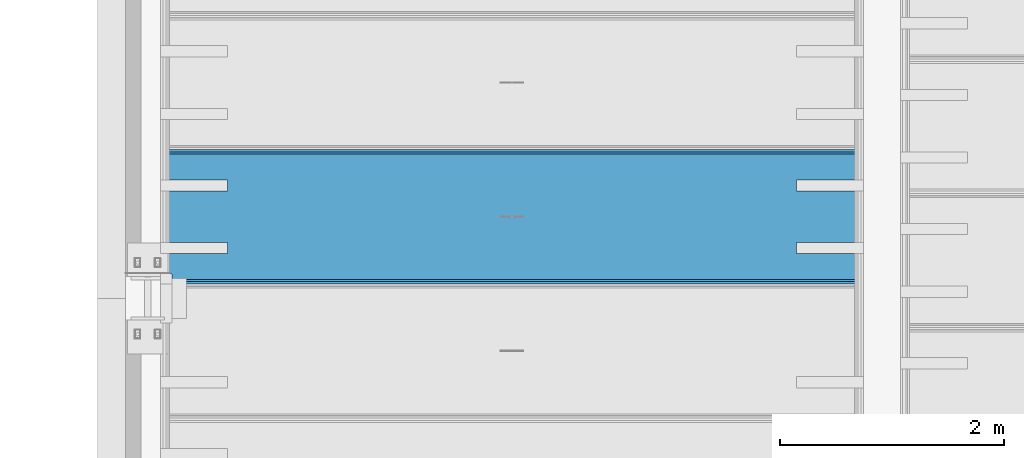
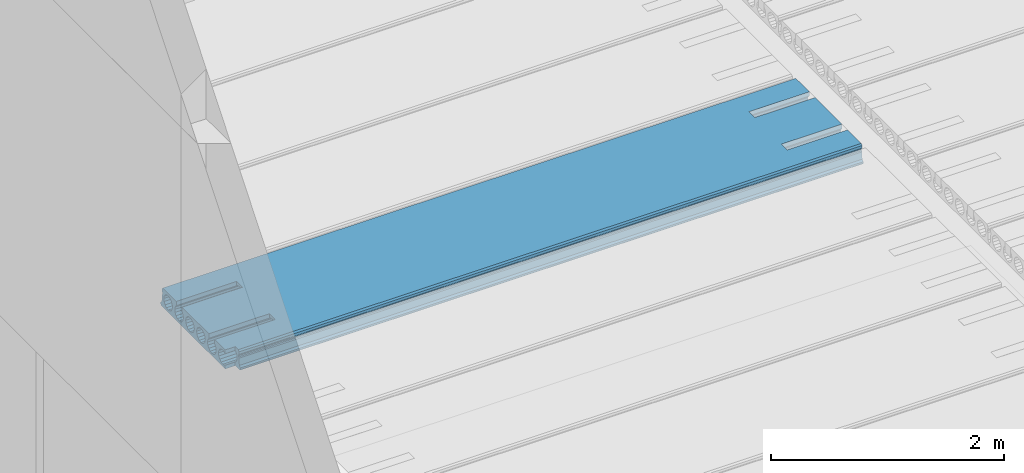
# One storey, part 131 of 230: 1 beam.
"""IFC4X3_ADD2 building model written with IfcOpenShell, lengths in millimetres."""

from ifc_helpers import new_model, si_unit, direction, origin_with_axes, place, context, subcontext, project, spatial, polygons, element, save


model = new_model("IFC4X3_ADD2")

# Units and contexts
model_context = context("Model", 3, precision=1e-05, world=origin_with_axes(), true_north=direction((0.0, 1.0)))
body_context = subcontext(model_context, "Body", "Model", "MODEL_VIEW")
ifc_project = project(units=[si_unit("LENGTHUNIT", "METRE", prefix="MILLI"), si_unit("AREAUNIT", "SQUARE_METRE"), si_unit("VOLUMEUNIT", "CUBIC_METRE"), si_unit("PLANEANGLEUNIT", "RADIAN"), si_unit("TIMEUNIT", "SECOND"), si_unit("MASSUNIT", "GRAM")], contexts=[model_context])

# Site, building, storey
site_placement = place(None, origin_with_axes())
site = spatial("IfcSite", under=ifc_project, at=site_placement, Name="Site", CompositionType="ELEMENT")
building_placement = place(site_placement, origin_with_axes())
building = spatial("IfcBuilding", under=site, at=building_placement, Name="IFC Building Story")
storey_placement = place(building_placement, origin_with_axes())
storey = spatial("IfcBuildingStorey", under=building, at=storey_placement, Name="ETAGE 00 (0)", Elevation=0.0)

# Beam
beam_placement = place(storey_placement, origin_with_axes())
element("IfcBeam", 1, at=beam_placement, inside=storey, Name="HOLLOWCORE SLAB", ObjectType="EB_SP200", context=body_context, shape_type="Tessellation", body=[
    polygons([(33516.189, 22020.0009155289, 4199.9999909), (33516.189, 22020.0009155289, 4155.806158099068), (33516.189, 22015.32146033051, 4152.679446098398), (33516.189, 21999.17189035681, 4128.509906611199), (33516.189, 21993.5009155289, 4099.9999909), (33516.189, 21999.17189035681, 4071.490075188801), (33516.189, 22015.3214603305, 4047.320535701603), (33516.189, 22039.4909998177, 4031.17096572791), (33516.189, 22068.0009155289, 4025.499990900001), (33516.189, 22096.5108312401, 4031.17096572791), (33516.189, 22120.6803707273, 4047.320535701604), (33516.189, 22136.82994070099, 4071.490075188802), (33516.189, 22142.5009155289, 4099.9999909), (33516.189, 22136.82994070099, 4128.5099066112), (33516.189, 22120.6803707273, 4152.679446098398), (33516.189, 22120.0009155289, 4153.133443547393), (33516.189, 22120.0009155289, 4199.9999909), (33516.189, 22580.0009155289, 4199.9999909), (33516.189, 22580.0009155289, 4153.133443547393), (33516.189, 22579.32146033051, 4152.679446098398), (33516.189, 22563.17189035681, 4128.509906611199), (33516.189, 22557.5009155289, 4099.9999909), (33516.189, 22563.17189035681, 4071.490075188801), (33516.189, 22579.3214603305, 4047.320535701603), (33516.189, 22603.4909998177, 4031.17096572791), (33516.189, 22632.0009155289, 4025.499990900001), (33516.189, 22660.5108312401, 4031.17096572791), (33516.189, 22684.6803707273, 4047.320535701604), (33516.189, 22700.82994070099, 4071.490075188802), (33516.189, 22706.5009155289, 4099.9999909), (33516.189, 22700.82994070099, 4128.5099066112), (33516.189, 22684.6803707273, 4152.679446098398), (33516.189, 22680.0009155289, 4155.806158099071), (33516.189, 22680.0009155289, 4199.9999909), (33516.189, 22912.0009155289, 4199.9999909), (33516.189, 22927.28961936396, 4185.002769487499), (33516.189, 22927.77093506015, 4159.9999909), (33516.189, 22920.58227911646, 4151.036789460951), (33516.189, 22918.1609855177, 4139.805000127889), (33516.189, 22921.01829405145, 4128.676139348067), (33516.189, 22928.55090332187, 4119.9999909), (33516.189, 22930.0009155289, 4044.999990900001), (33516.189, 22950.0009155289, 4029.9999909), (33516.189, 22950.0009155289, 4012.9999909), (33516.189, 22939.0009155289, 3999.9999909), (33516.189, 21840.0009155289, 3999.9999909), (33516.189, 21840.0009155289, 4038.848394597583), (33516.189, 21851.4909998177, 4031.17096572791), (33516.189, 21880.0009155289, 4025.499990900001), (33516.189, 21908.5108312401, 4031.17096572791), (33516.189, 21932.68037072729, 4047.320535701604), (33516.189, 21948.82994070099, 4071.490075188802), (33516.189, 21954.5009155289, 4099.9999909), (33516.189, 21948.82994070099, 4128.5099066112), (33516.189, 21932.6803707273, 4152.679446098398), (33516.189, 21908.5108312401, 4168.829016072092), (33516.189, 21880.0009155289, 4174.4999909), (33516.189, 21851.49099981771, 4168.829016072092), (33516.189, 21840.0009155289, 4161.151587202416), (33516.189, 21840.0009155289, 4199.9999909), (33516.189, 22872.6803707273, 4152.679446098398), (33516.189, 22848.5108312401, 4168.829016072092), (33516.189, 22820.0009155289, 4174.4999909), (33516.189, 22791.4909998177, 4168.829016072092), (33516.189, 22767.32146033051, 4152.679446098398), (33516.189, 22751.17189035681, 4128.509906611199), (33516.189, 22745.5009155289, 4099.9999909), (33516.189, 22751.17189035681, 4071.490075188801), (33516.189, 22767.3214603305, 4047.320535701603), (33516.189, 22791.4909998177, 4031.17096572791), (33516.189, 22820.0009155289, 4025.499990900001), (33516.189, 22848.5108312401, 4031.17096572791), (33516.189, 22872.6803707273, 4047.320535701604), (33516.189, 22888.82994070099, 4071.490075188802), (33516.189, 22894.5009155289, 4099.9999909), (33516.189, 22888.82994070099, 4128.5099066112), (33516.189, 22496.6803707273, 4152.679446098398), (33516.189, 22472.5108312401, 4168.829016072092), (33516.189, 22444.0009155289, 4174.4999909), (33516.189, 22415.4909998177, 4168.829016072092), (33516.189, 22391.32146033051, 4152.679446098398), (33516.189, 22375.17189035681, 4128.509906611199), (33516.189, 22369.5009155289, 4099.9999909), (33516.189, 22375.1718903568, 4071.490075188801), (33516.189, 22391.32146033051, 4047.320535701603), (33516.189, 22415.4909998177, 4031.17096572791), (33516.189, 22444.0009155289, 4025.499990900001), (33516.189, 22472.5108312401, 4031.17096572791), (33516.189, 22496.6803707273, 4047.320535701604), (33516.189, 22512.82994070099, 4071.490075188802), (33516.189, 22518.5009155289, 4099.9999909), (33516.189, 22512.82994070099, 4128.5099066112), (33516.189, 22308.6803707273, 4152.679446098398), (33516.189, 22284.5108312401, 4168.829016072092), (33516.189, 22256.0009155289, 4174.4999909), (33516.189, 22227.49099981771, 4168.829016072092), (33516.189, 22203.3214603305, 4152.679446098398), (33516.189, 22187.17189035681, 4128.509906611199), (33516.189, 22181.5009155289, 4099.9999909), (33516.189, 22187.17189035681, 4071.490075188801), (33516.189, 22203.3214603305, 4047.320535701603), (33516.189, 22227.4909998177, 4031.17096572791), (33516.189, 22256.0009155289, 4025.499990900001), (33516.189, 22284.51083124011, 4031.17096572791), (33516.189, 22308.6803707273, 4047.320535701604), (33516.189, 22324.82994070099, 4071.490075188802), (33516.189, 22330.5009155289, 4099.9999909), (33516.189, 22324.829940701, 4128.5099066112), (39801.189, 22939.0009155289, 3999.9999909), (39801.189, 22950.0009155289, 4012.999990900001), (39801.189, 22950.0009155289, 4029.9999909), (39801.189, 22930.0009155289, 4044.999990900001), (39801.189, 22928.55090332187, 4119.9999909), (39801.189, 22921.01829405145, 4128.676139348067), (39801.189, 22918.16098551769, 4139.805000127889), (39801.189, 22920.58227911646, 4151.036789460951), (39801.189, 22927.77093506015, 4159.9999909), (39801.189, 22927.28961936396, 4185.002769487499), (39801.189, 22912.0009155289, 4199.9999909), (39801.189, 22680.0009155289, 4199.9999909), (39801.189, 22680.0009155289, 4155.806158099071), (39801.189, 22684.6803707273, 4152.679446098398), (39801.189, 22700.82994070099, 4128.509906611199), (39801.189, 22706.5009155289, 4099.9999909), (39801.189, 22700.82994070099, 4071.490075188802), (39801.189, 22684.6803707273, 4047.320535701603), (39801.189, 22660.5108312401, 4031.17096572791), (39801.189, 22632.0009155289, 4025.499990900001), (39801.189, 22603.4909998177, 4031.17096572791), (39801.189, 22579.3214603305, 4047.320535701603), (39801.189, 22563.17189035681, 4071.490075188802), (39801.189, 22557.5009155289, 4099.9999909), (39801.189, 22563.17189035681, 4128.509906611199), (39801.189, 22579.3214603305, 4152.679446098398), (39801.189, 22580.0009155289, 4153.133443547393), (39801.189, 22580.0009155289, 4199.9999909), (39801.189, 22120.0009155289, 4199.9999909), (39801.189, 22120.0009155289, 4153.133443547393), (39801.189, 22120.6803707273, 4152.679446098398), (39801.189, 22136.82994070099, 4128.509906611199), (39801.189, 22142.5009155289, 4099.9999909), (39801.189, 22136.82994070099, 4071.490075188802), (39801.189, 22120.6803707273, 4047.320535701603), (39801.189, 22096.5108312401, 4031.17096572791), (39801.189, 22068.0009155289, 4025.499990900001), (39801.189, 22039.4909998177, 4031.17096572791), (39801.189, 22015.32146033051, 4047.320535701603), (39801.189, 21999.17189035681, 4071.490075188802), (39801.189, 21993.5009155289, 4099.9999909), (39801.189, 21999.17189035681, 4128.509906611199), (39801.189, 22015.32146033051, 4152.679446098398), (39801.189, 22020.0009155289, 4155.806158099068), (39801.189, 22020.0009155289, 4199.9999909), (39801.189, 21788.0009155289, 4199.9999909), (39801.189, 21772.71221169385, 4185.002769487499), (39801.189, 21772.23089599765, 4159.9999909), (39801.189, 21779.41955194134, 4151.036789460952), (39801.189, 21781.84084554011, 4139.805000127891), (39801.189, 21778.98353700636, 4128.676139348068), (39801.189, 21771.45092773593, 4119.9999909), (39801.189, 21770.0009155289, 4044.999990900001), (39801.189, 21750.0009155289, 4029.9999909), (39801.189, 21750.0009155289, 4012.999990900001), (39801.189, 21761.0009155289, 3999.9999909), (39801.189, 22872.6803707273, 4152.679446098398), (39801.189, 22888.82994070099, 4128.509906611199), (39801.189, 22894.5009155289, 4099.9999909), (39801.189, 22888.82994070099, 4071.490075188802), (39801.189, 22872.6803707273, 4047.320535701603), (39801.189, 22848.5108312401, 4031.17096572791), (39801.189, 22820.0009155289, 4025.499990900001), (39801.189, 22791.4909998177, 4031.17096572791), (39801.189, 22767.3214603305, 4047.320535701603), (39801.189, 22751.17189035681, 4071.490075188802), (39801.189, 22745.5009155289, 4099.9999909), (39801.189, 22751.17189035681, 4128.509906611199), (39801.189, 22767.3214603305, 4152.679446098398), (39801.189, 22791.4909998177, 4168.829016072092), (39801.189, 22820.0009155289, 4174.4999909), (39801.189, 22848.5108312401, 4168.829016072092), (39801.189, 22496.6803707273, 4152.679446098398), (39801.189, 22512.82994070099, 4128.509906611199), (39801.189, 22518.5009155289, 4099.9999909), (39801.189, 22512.82994070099, 4071.490075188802), (39801.189, 22496.6803707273, 4047.320535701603), (39801.189, 22472.5108312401, 4031.17096572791), (39801.189, 22444.0009155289, 4025.499990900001), (39801.189, 22415.4909998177, 4031.17096572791), (39801.189, 22391.3214603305, 4047.320535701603), (39801.189, 22375.17189035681, 4071.490075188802), (39801.189, 22369.5009155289, 4099.9999909), (39801.189, 22375.17189035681, 4128.509906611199), (39801.189, 22391.3214603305, 4152.679446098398), (39801.189, 22415.4909998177, 4168.829016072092), (39801.189, 22444.0009155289, 4174.4999909), (39801.189, 22472.5108312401, 4168.829016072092), (39801.189, 22308.6803707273, 4152.679446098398), (39801.189, 22324.82994070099, 4128.509906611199), (39801.189, 22330.5009155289, 4099.9999909), (39801.189, 22324.82994070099, 4071.490075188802), (39801.189, 22308.6803707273, 4047.320535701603), (39801.189, 22284.5108312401, 4031.17096572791), (39801.189, 22256.0009155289, 4025.499990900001), (39801.189, 22227.4909998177, 4031.17096572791), (39801.189, 22203.3214603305, 4047.320535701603), (39801.189, 22187.17189035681, 4071.490075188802), (39801.189, 22181.5009155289, 4099.9999909), (39801.189, 22187.17189035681, 4128.509906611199), (39801.189, 22203.3214603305, 4152.679446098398), (39801.189, 22227.4909998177, 4168.829016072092), (39801.189, 22256.0009155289, 4174.4999909), (39801.189, 22284.5108312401, 4168.829016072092), (39801.189, 21932.6803707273, 4152.679446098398), (39801.189, 21948.82994070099, 4128.509906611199), (39801.189, 21954.5009155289, 4099.9999909), (39801.189, 21948.82994070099, 4071.490075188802), (39801.189, 21932.6803707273, 4047.320535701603), (39801.189, 21908.5108312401, 4031.17096572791), (39801.189, 21880.0009155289, 4025.499990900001), (39801.189, 21851.4909998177, 4031.17096572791), (39801.189, 21827.3214603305, 4047.320535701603), (39801.189, 21811.17189035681, 4071.490075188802), (39801.189, 21805.5009155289, 4099.9999909), (39801.189, 21811.17189035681, 4128.509906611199), (39801.189, 21827.3214603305, 4152.679446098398), (39801.189, 21851.4909998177, 4168.829016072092), (39801.189, 21880.0009155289, 4174.4999909), (39801.189, 21908.5108312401, 4168.829016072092), (33616.189, 21761.00091552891, 3999.9999909), (33616.189, 21840.0009155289, 3999.9999909), (33616.189, 21750.0009155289, 4012.999990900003), (33616.189, 21750.0009155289, 4029.9999909), (33616.189, 21770.0009155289, 4044.999990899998), (33616.189, 21771.45092773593, 4119.9999909), (33616.189, 21778.98353700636, 4128.676139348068), (33616.189, 21781.84084554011, 4139.805000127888), (33616.189, 21779.41955194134, 4151.036789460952), (33616.189, 21772.23089599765, 4159.9999909), (33616.189, 21772.71221169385, 4185.002769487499), (33616.189, 21788.0009155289, 4199.9999909), (34116.189, 22120.0009155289, 4199.9999909), (34116.189, 22020.0009155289, 4199.9999909), (33616.189, 21840.0009155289, 4199.9999909), (39201.189, 22020.0009155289, 4199.9999909), (39201.189, 22120.0009155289, 4199.9999909), (39201.189, 22580.0009155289, 4199.9999909), (39201.189, 22680.0009155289, 4199.9999909), (34116.189, 22680.0009155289, 4199.9999909), (34116.189, 22580.0009155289, 4199.9999909), (39201.189, 22680.0009155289, 4155.806158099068), (39201.189, 22660.5108312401, 4168.829016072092), (34116.189, 22660.5108312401, 4168.82901607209), (34116.189, 22680.0009155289, 4155.806158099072), (39201.189, 22632.0009155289, 4174.4999909), (34116.189, 22632.0009155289, 4174.4999909), (39201.189, 22603.4909998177, 4168.829016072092), (34116.189, 22603.4909998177, 4168.829016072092), (34116.189, 22580.0009155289, 4153.13344354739), (39201.189, 22580.0009155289, 4153.13344354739), (39201.189, 22120.0009155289, 4153.133443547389), (39201.189, 22096.5108312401, 4168.829016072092), (34116.189, 22096.5108312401, 4168.82901607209), (34116.189, 22120.0009155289, 4153.133443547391), (39201.189, 22068.0009155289, 4174.4999909), (34116.189, 22068.0009155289, 4174.4999909), (39201.189, 22039.49099981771, 4168.829016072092), (34116.189, 22039.49099981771, 4168.829016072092), (34116.189, 22020.0009155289, 4155.806158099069), (39201.189, 22020.0009155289, 4155.806158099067), (33616.189, 21827.3214603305, 4152.679446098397), (33616.189, 21840.0009155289, 4161.151587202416), (33616.189, 21811.17189035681, 4128.509906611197), (33616.189, 21805.5009155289, 4099.9999909), (33616.189, 21811.17189035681, 4071.490075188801), (33616.189, 21827.3214603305, 4047.320535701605), (33616.189, 21840.0009155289, 4038.848394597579), (34116.189, 22580.0009155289, 4199.9999969), (34116.189, 22680.0009155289, 4199.9999969), (39201.189, 22680.0009155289, 4199.9999969), (39201.189, 22580.0009155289, 4199.9999969), (39201.189, 22120.0009155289, 4199.9999969), (39201.189, 22020.0009155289, 4199.9999969), (34116.189, 22020.0009155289, 4199.9999969), (34116.189, 22120.0009155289, 4199.9999969)], [[[92, 77, 18]], [[92, 18, 19]], [[21, 22, 91]], [[21, 91, 92]], [[92, 20, 21]], [[92, 19, 20]], [[23, 24, 90]], [[90, 91, 22]], [[90, 22, 23]], [[24, 89, 90]], [[32, 33, 34]], [[64, 65, 31]], [[64, 31, 32]], [[64, 32, 34]], [[34, 63, 64]], [[34, 35, 63]], [[35, 62, 63]], [[35, 61, 62]], [[66, 67, 30]], [[66, 30, 31]], [[31, 65, 66]], [[68, 69, 29]], [[29, 30, 67]], [[29, 67, 68]], [[38, 39, 76]], [[38, 76, 61]], [[61, 35, 36]], [[61, 36, 37]], [[61, 37, 38]], [[40, 41, 75]], [[40, 75, 76]], [[76, 39, 40]], [[41, 42, 74]], [[41, 74, 75]], [[42, 43, 44]], [[42, 44, 45]], [[45, 73, 74]], [[45, 74, 42]], [[45, 72, 73]], [[45, 71, 72]], [[45, 70, 71]], [[45, 28, 70]], [[28, 29, 69]], [[28, 69, 70]], [[45, 27, 28]], [[45, 26, 27]], [[45, 88, 26]], [[88, 25, 26]], [[88, 89, 24]], [[88, 24, 25]], [[45, 87, 88]], [[87, 45, 46]], [[46, 86, 87]], [[58, 59, 60]], [[60, 57, 58]], [[60, 56, 57]], [[56, 60, 1]], [[1, 55, 56]], [[1, 2, 54]], [[1, 54, 55]], [[4, 5, 53]], [[4, 53, 54]], [[54, 3, 4]], [[54, 2, 3]], [[6, 7, 52]], [[52, 53, 5]], [[52, 5, 6]], [[7, 8, 51]], [[7, 51, 52]], [[8, 50, 51]], [[15, 16, 17]], [[96, 97, 14]], [[96, 14, 15]], [[96, 15, 17]], [[17, 95, 96]], [[95, 17, 18]], [[18, 94, 95]], [[18, 93, 94]], [[98, 99, 13]], [[98, 13, 14]], [[14, 97, 98]], [[100, 101, 12]], [[12, 13, 99]], [[12, 99, 100]], [[101, 102, 11]], [[101, 11, 12]], [[102, 10, 11]], [[102, 9, 10]], [[104, 105, 85]], [[104, 85, 86]], [[86, 103, 104]], [[103, 86, 46]], [[9, 102, 103]], [[103, 46, 9]], [[46, 50, 8]], [[46, 8, 9]], [[46, 49, 50]], [[46, 48, 49]], [[46, 47, 48]], [[105, 84, 85]], [[106, 107, 83]], [[106, 83, 84]], [[84, 105, 106]], [[108, 93, 82]], [[82, 83, 107]], [[82, 107, 108]], [[93, 81, 82]], [[93, 80, 81]], [[93, 79, 80]], [[79, 93, 18]], [[18, 78, 79]], [[18, 77, 78]], [[161, 162, 163]], [[161, 163, 164]], [[116, 117, 118]], [[116, 118, 119]], [[116, 119, 165]], [[165, 166, 115]], [[165, 115, 116]], [[166, 114, 115]], [[168, 169, 112]], [[112, 113, 167]], [[112, 167, 168]], [[113, 114, 166]], [[113, 166, 167]], [[180, 165, 119]], [[119, 179, 180]], [[179, 119, 120]], [[120, 178, 179]], [[120, 177, 178]], [[120, 121, 176]], [[120, 176, 177]], [[123, 124, 175]], [[123, 175, 176]], [[176, 122, 123]], [[176, 121, 122]], [[125, 126, 174]], [[174, 175, 124]], [[174, 124, 125]], [[126, 127, 173]], [[126, 173, 174]], [[127, 172, 173]], [[134, 135, 136]], [[136, 181, 133]], [[136, 133, 134]], [[182, 183, 132]], [[182, 132, 133]], [[133, 181, 182]], [[184, 185, 131]], [[131, 132, 183]], [[131, 183, 184]], [[185, 130, 131]], [[196, 181, 136]], [[136, 195, 196]], [[136, 197, 195]], [[197, 194, 195]], [[197, 193, 194]], [[197, 192, 193]], [[198, 199, 191]], [[198, 191, 192]], [[192, 197, 198]], [[200, 201, 190]], [[190, 191, 199]], [[190, 199, 200]], [[201, 189, 190]], [[212, 197, 136]], [[136, 211, 212]], [[136, 137, 211]], [[137, 210, 211]], [[137, 209, 210]], [[137, 138, 208]], [[137, 208, 209]], [[140, 141, 207]], [[140, 207, 208]], [[208, 139, 140]], [[208, 138, 139]], [[142, 143, 206]], [[206, 207, 141]], [[206, 141, 142]], [[143, 205, 206]], [[151, 152, 153]], [[153, 213, 150]], [[153, 150, 151]], [[214, 215, 149]], [[214, 149, 150]], [[150, 213, 214]], [[216, 217, 148]], [[148, 149, 215]], [[148, 215, 216]], [[223, 224, 159]], [[223, 159, 160]], [[160, 161, 222]], [[160, 222, 223]], [[161, 164, 221]], [[161, 221, 222]], [[164, 220, 221]], [[164, 219, 220]], [[164, 218, 219]], [[164, 147, 218]], [[147, 148, 217]], [[147, 217, 218]], [[164, 146, 147]], [[164, 145, 146]], [[164, 204, 145]], [[204, 144, 145]], [[204, 205, 143]], [[204, 143, 144]], [[164, 203, 204]], [[164, 188, 203]], [[188, 202, 203]], [[188, 189, 201]], [[188, 201, 202]], [[164, 187, 188]], [[164, 129, 187]], [[129, 186, 187]], [[129, 130, 185]], [[129, 185, 186]], [[164, 128, 129]], [[164, 171, 128]], [[171, 172, 127]], [[171, 127, 128]], [[164, 109, 171]], [[109, 170, 171]], [[109, 112, 169]], [[109, 169, 170]], [[109, 110, 111]], [[109, 111, 112]], [[224, 158, 159]], [[228, 213, 153]], [[153, 227, 228]], [[153, 154, 227]], [[154, 226, 227]], [[154, 157, 225]], [[154, 225, 226]], [[157, 158, 224]], [[157, 224, 225]], [[154, 155, 156]], [[154, 156, 157]], [[230, 46, 45]], [[230, 45, 109]], [[230, 109, 164]], [[164, 229, 230]], [[164, 163, 231, 229]], [[163, 162, 232, 231]], [[162, 161, 233, 232]], [[161, 160, 234, 233]], [[160, 159, 235, 234]], [[159, 158, 236, 235]], [[158, 157, 237, 236]], [[157, 156, 238, 237]], [[156, 155, 239, 238]], [[155, 154, 240, 239]], [[243, 240, 242]], [[242, 1, 243]], [[1, 60, 243]], [[244, 245, 241]], [[242, 240, 154]], [[242, 154, 244]], [[244, 241, 242]], [[154, 153, 244]], [[245, 137, 136]], [[245, 136, 246]], [[247, 120, 119]], [[248, 249, 246]], [[247, 119, 35]], [[247, 35, 248]], [[248, 246, 247]], [[35, 34, 248]], [[249, 241, 245]], [[249, 245, 246]], [[249, 18, 17]], [[249, 17, 241]], [[36, 35, 119, 118]], [[37, 36, 118, 117]], [[38, 37, 117, 116]], [[39, 38, 116, 115]], [[40, 39, 115, 114]], [[41, 40, 114, 113]], [[42, 41, 113, 112]], [[43, 42, 112, 111]], [[44, 43, 111, 110]], [[45, 44, 110, 109]], [[62, 61, 165, 180]], [[63, 62, 180, 179]], [[64, 63, 179, 178]], [[65, 64, 178, 177]], [[66, 65, 177, 176]], [[67, 66, 176, 175]], [[68, 67, 175, 174]], [[69, 68, 174, 173]], [[70, 69, 173, 172]], [[71, 70, 172, 171]], [[72, 71, 171, 170]], [[73, 72, 170, 169]], [[74, 73, 169, 168]], [[75, 74, 168, 167]], [[76, 75, 167, 166]], [[61, 76, 166, 165]], [[253, 33, 32]], [[253, 32, 250]], [[250, 251, 252]], [[250, 252, 253]], [[32, 122, 250]], [[122, 121, 250]], [[252, 251, 254, 255]], [[255, 254, 256, 257]], [[259, 135, 134]], [[259, 134, 258]], [[258, 257, 256]], [[258, 256, 259]], [[134, 20, 258]], [[20, 19, 258]], [[21, 20, 134, 133]], [[22, 21, 133, 132]], [[23, 22, 132, 131]], [[24, 23, 131, 130]], [[25, 24, 130, 129]], [[26, 25, 129, 128]], [[27, 26, 128, 127]], [[28, 27, 127, 126]], [[29, 28, 126, 125]], [[30, 29, 125, 124]], [[31, 30, 124, 123]], [[32, 31, 123, 122]], [[78, 77, 181, 196]], [[79, 78, 196, 195]], [[80, 79, 195, 194]], [[81, 80, 194, 193]], [[82, 81, 193, 192]], [[83, 82, 192, 191]], [[84, 83, 191, 190]], [[85, 84, 190, 189]], [[86, 85, 189, 188]], [[87, 86, 188, 187]], [[88, 87, 187, 186]], [[89, 88, 186, 185]], [[90, 89, 185, 184]], [[91, 90, 184, 183]], [[92, 91, 183, 182]], [[77, 92, 182, 181]], [[94, 93, 197, 212]], [[95, 94, 212, 211]], [[96, 95, 211, 210]], [[97, 96, 210, 209]], [[98, 97, 209, 208]], [[99, 98, 208, 207]], [[100, 99, 207, 206]], [[101, 100, 206, 205]], [[102, 101, 205, 204]], [[103, 102, 204, 203]], [[104, 103, 203, 202]], [[105, 104, 202, 201]], [[106, 105, 201, 200]], [[107, 106, 200, 199]], [[108, 107, 199, 198]], [[93, 108, 198, 197]], [[263, 16, 15]], [[263, 15, 260]], [[260, 261, 262]], [[260, 262, 263]], [[15, 139, 260]], [[139, 138, 260]], [[262, 261, 264, 265]], [[265, 264, 266, 267]], [[269, 152, 151]], [[269, 151, 268]], [[268, 267, 266]], [[268, 266, 269]], [[151, 3, 268]], [[3, 2, 268]], [[4, 3, 151, 150]], [[5, 4, 150, 149]], [[6, 5, 149, 148]], [[7, 6, 148, 147]], [[8, 7, 147, 146]], [[9, 8, 146, 145]], [[10, 9, 145, 144]], [[11, 10, 144, 143]], [[12, 11, 143, 142]], [[13, 12, 142, 141]], [[14, 13, 141, 140]], [[15, 14, 140, 139]], [[56, 55, 213, 228]], [[57, 56, 228, 227]], [[58, 57, 227, 226]], [[271, 59, 58]], [[271, 58, 226]], [[226, 225, 270]], [[226, 270, 271]], [[225, 224, 272, 270]], [[224, 223, 273, 272]], [[223, 222, 274, 273]], [[222, 221, 275, 274]], [[276, 275, 221]], [[276, 221, 220]], [[220, 48, 276]], [[48, 47, 276]], [[49, 48, 220, 219]], [[50, 49, 219, 218]], [[51, 50, 218, 217]], [[52, 51, 217, 216]], [[53, 52, 216, 215]], [[54, 53, 215, 214]], [[55, 54, 214, 213]], [[34, 33, 253, 248]], [[19, 18, 277, 258]], [[257, 258, 249]], [[249, 278, 255]], [[249, 255, 257]], [[278, 252, 255]], [[278, 253, 252]], [[136, 135, 259, 246]], [[121, 120, 279, 250]], [[251, 250, 247]], [[247, 254, 251]], [[247, 280, 256]], [[247, 256, 254]], [[280, 259, 256]], [[153, 152, 269, 244]], [[138, 137, 281, 260]], [[261, 260, 245]], [[245, 282, 264]], [[245, 264, 261]], [[282, 266, 264]], [[282, 269, 266]], [[17, 16, 263, 241]], [[2, 1, 283, 268]], [[267, 268, 242]], [[242, 265, 267]], [[242, 284, 262]], [[242, 262, 265]], [[284, 263, 262]], [[230, 276, 47, 46]], [[275, 276, 230]], [[233, 274, 275]], [[233, 275, 230]], [[233, 230, 229]], [[229, 231, 232]], [[229, 232, 233]], [[233, 234, 273]], [[233, 273, 274]], [[235, 236, 272]], [[272, 273, 234]], [[272, 234, 235]], [[237, 238, 239]], [[237, 239, 240]], [[237, 240, 243]], [[237, 243, 270]], [[270, 272, 236]], [[270, 236, 237]], [[243, 271, 270]], [[271, 243, 60, 59]]]),
])

save(model, "model.ifc")
